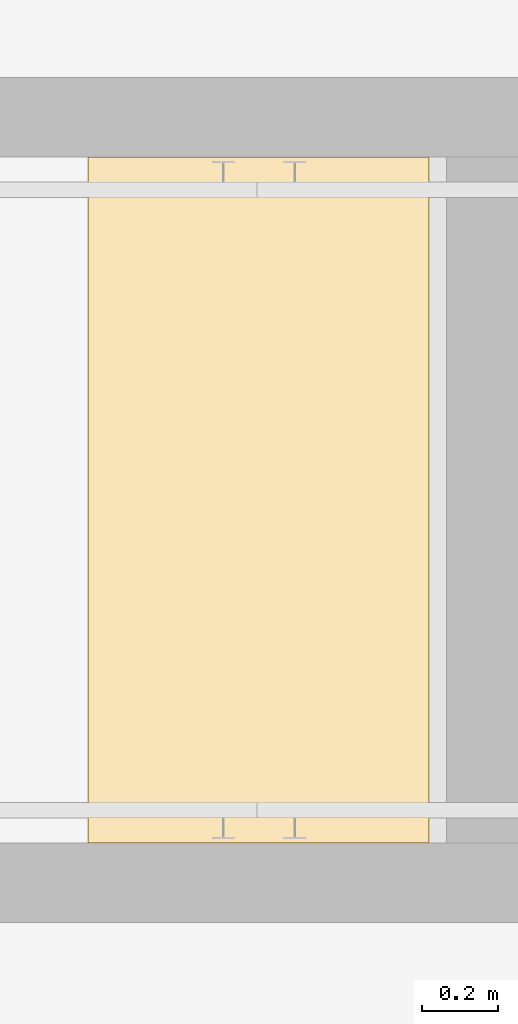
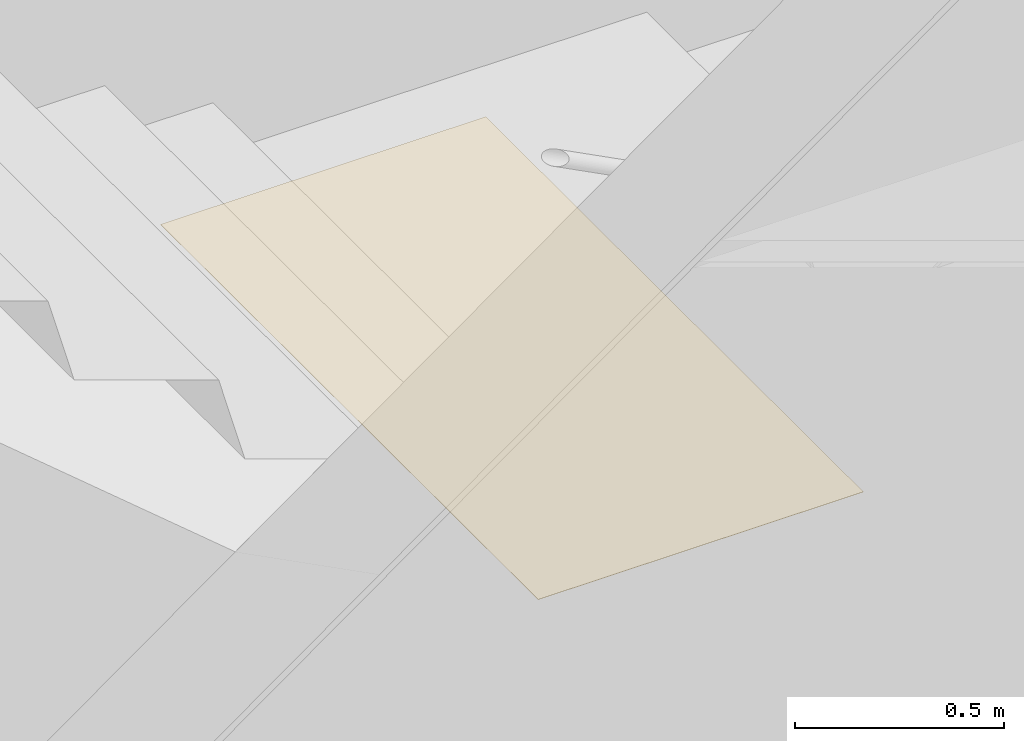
# One storey, part 183 of 246: 1 covering.
"""IFC2X3 building model written with IfcOpenShell, lengths in millimetres."""

from ifc_helpers import new_model, entity, si_unit, converted_unit, derived_unit, money_unit, direction, frame, origin_with_axes, place, context, subcontext, project, spatial, faceted_brep, material, type_object, element, save


model = new_model("IFC2X3")

# Units and contexts
model_context = context("Model", 3, precision=0.01, world=origin_with_axes(), true_north=direction((0.0, 1.0)))
body_context = subcontext(model_context, "Body", "Model", "MODEL_VIEW")
ifc_project = project(units=[si_unit("LENGTHUNIT", "METRE", prefix="MILLI"), si_unit("AREAUNIT", "SQUARE_METRE"), si_unit("VOLUMEUNIT", "CUBIC_METRE"), converted_unit("PLANEANGLEUNIT", "DEGREE", entity("IfcPlaneAngleMeasure", 0.0174532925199), si_unit("PLANEANGLEUNIT", "RADIAN"), dimensions=[0, 0, 0, 0, 0, 0, 0]), si_unit("SOLIDANGLEUNIT", "STERADIAN"), money_unit("EUR"), converted_unit("TIMEUNIT", "Year", entity("IfcTimeMeasure", 31556926.0), si_unit("TIMEUNIT", "SECOND"), dimensions=[0, 0, 1, 0, 0, 0, 0]), si_unit("MASSUNIT", "GRAM", prefix="KILO"), si_unit("THERMODYNAMICTEMPERATUREUNIT", "DEGREE_CELSIUS"), si_unit("LUMINOUSINTENSITYUNIT", "LUMEN"), si_unit("ENERGYUNIT", "JOULE", prefix="MEGA"), derived_unit("THERMALCONDUCTANCEUNIT", [(si_unit("POWERUNIT", "WATT"), 1), (si_unit("LENGTHUNIT", "METRE"), -1), (si_unit("THERMODYNAMICTEMPERATUREUNIT", "KELVIN"), -1)]), derived_unit("SPECIFICHEATCAPACITYUNIT", [(si_unit("ENERGYUNIT", "JOULE"), 1), (si_unit("MASSUNIT", "GRAM", prefix="KILO"), -1), (si_unit("THERMODYNAMICTEMPERATUREUNIT", "KELVIN"), -1)]), derived_unit("MASSDENSITYUNIT", [(si_unit("MASSUNIT", "GRAM", prefix="KILO"), 1), (si_unit("VOLUMEUNIT", "CUBIC_METRE"), -1)])], contexts=[model_context])

# Site, building, storey
site_placement = place(None, origin_with_axes())
site = spatial("IfcSite", under=ifc_project, at=site_placement, Name="L.Koidula tn 11b", CompositionType="ELEMENT")
building_placement = place(site_placement, origin_with_axes())
building = spatial("IfcBuilding", under=site, at=building_placement, Name="Rakvere Riigigümnaasium", CompositionType="ELEMENT")
storey_placement = place(building_placement, origin_with_axes())
storey = spatial("IfcBuildingStorey", under=building, at=storey_placement, Name="1.korrus 0,00", CompositionType="ELEMENT", Elevation=0.0)

# Covering
ifc_material = material(Name="Tolmutõke")
covering_type = type_object("IfcCoveringType", Name="Tolmutõke 1", PredefinedType="CLADDING")
covering_placement = place(storey_placement, frame((80944.6117592, 17110.371032, 1710.0), z_axis=(0.0, 0.0, 1.0), x_axis=(1.0, 0.0, 0.0)))
element("IfcCovering", 1, at=covering_placement, inside=storey, type_object=covering_type, material=ifc_material, Name="L-07", PredefinedType="CLADDING", context=body_context, shape_type="Brep", body=[
    faceted_brep([(0.0, 0.0, 0.0), (0.0, 0.0, -1.0), (0.0, -1810.01984176, -1.0), (0.0, -1810.01984176, 0.0), (900.0, 0.0852769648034, 0.0), (900.0, 0.0852769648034, -1.0), (900.0, -1810.02007418, -1.0), (900.0, -1810.02007418, 0.0)], [[[0, 1, 2, 3]], [[4, 5, 1, 0]], [[2, 1, 5, 6]], [[3, 2, 6, 7]], [[4, 0, 3, 7]], [[7, 6, 5, 4]]]),
])

save(model, "model.ifc")
